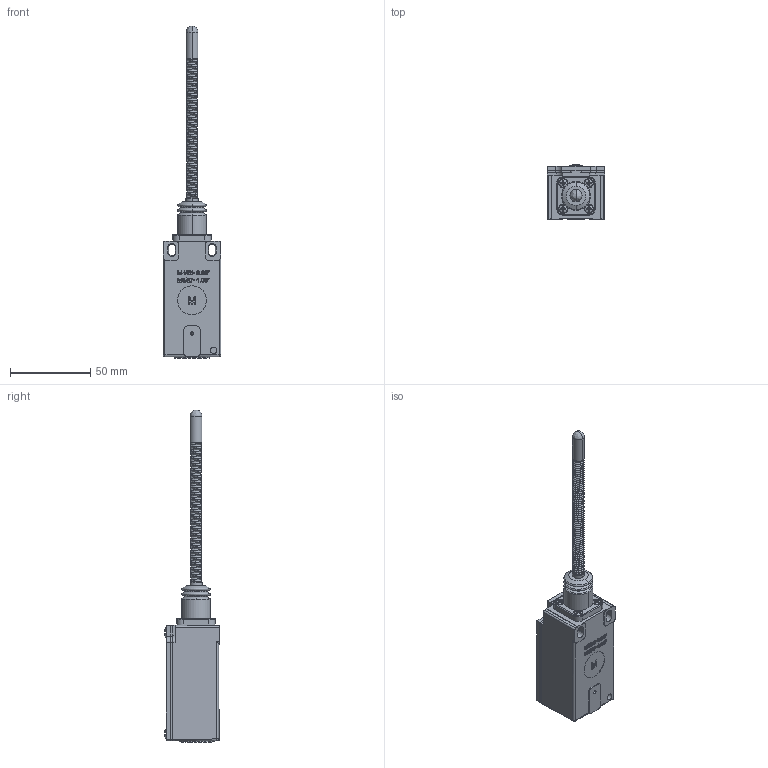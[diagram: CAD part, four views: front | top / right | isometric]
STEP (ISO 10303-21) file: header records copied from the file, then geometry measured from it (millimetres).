
FILE_DESCRIPTION((''),'2;1');
FILE_NAME('6021190100_ASM','2014-07-24T',('Yvonne.Storm'),(''),'PRO/ENGINEER BY PARAMETRIC TECHNOLOGY CORPORATION, 2012360','PRO/ENGINEER BY PARAMETRIC TECHNOLOGY CORPORATION, 2012360','');
FILE_SCHEMA(('AUTOMOTIVE_DESIGN { 1 0 10303 214 1 1 1 1 }'));
Products named in the file (2): _6021190100; 6021190100_ASM
Assembly tree (1 placements, depth 2):
  6021190100_ASM
    _6021190100
Bounding box: 36 x 34.02 x 206.4 mm (x, y, z)
Surface area: 29358.4 mm2 (no closed solid volume)
Topology: 0 solids, 60 shells, 405 faces, 1711 edges, 1338 vertices
Faces by surface type: plane 233, cylinder 58, cone 46, bspline 40, sphere 14, torus 14
Entity records: 45548 total; most frequent: CARTESIAN_POINT 28771, ORIENTED_EDGE 2410, DIRECTION 1984, EDGE_CURVE 1683, PRESENTATION_STYLE_ASSIGNMENT 1348, STYLED_ITEM 1347, VERTEX_POINT 1338, CURVE_STYLE 1301
